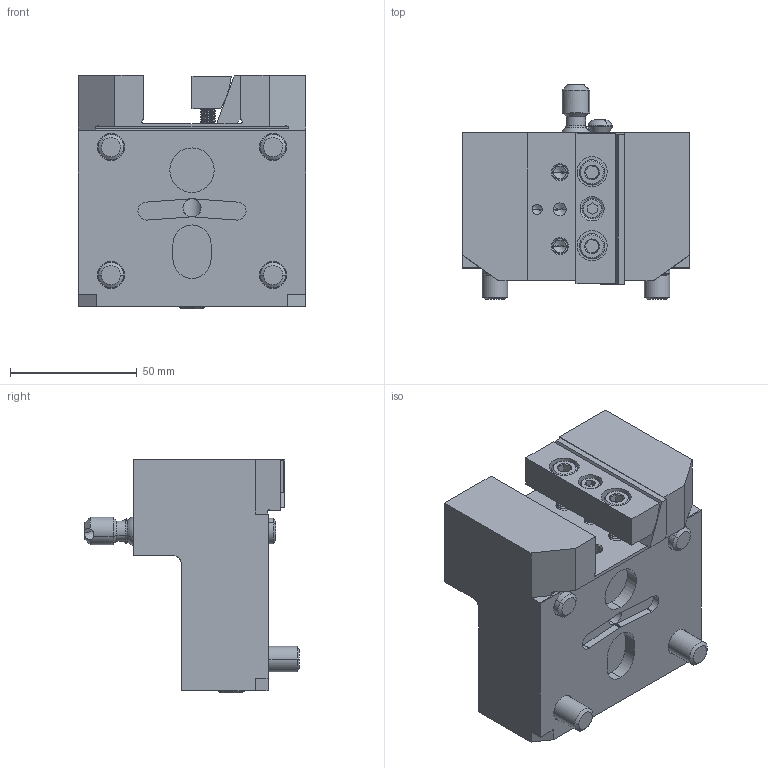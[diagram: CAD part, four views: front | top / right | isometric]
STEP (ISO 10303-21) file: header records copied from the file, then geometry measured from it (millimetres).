
FILE_DESCRIPTION (( 'STEP AP203' ), '1' );
FILE_NAME ('04-0790.STEP', '2022-07-12T15:56:47', ( '' ), ( '' ), 'SwSTEP 2.0', 'SolidWorks 2021', '' );
FILE_SCHEMA (( 'CONFIG_CONTROL_DESIGN' ));
Length unit declared in the file: inch
Products named in the file (15): 58-1627; 40-1640; 40-16582_40-16582; 10000015933; 22-8749; 04-0790; 10000016468; 40-0003_40-0003; 57-0026; 20-3797; 40-1626_40-1626; 20-3796; 40-0011_40-0011; 10000011175; 20-10448A
Assembly tree (17 placements, depth 3):
  04-0790
    10000011175
      20-10448A
      22-8749
      58-1627
      40-0003_40-0003
      20-3796
      20-3797
      40-1626_40-1626  x2
      40-0011_40-0011  x2
      40-1640
      40-16582_40-16582  x2
      57-0026
      10000016468
      10000015933
Bounding box: 90 x 84.69 x 92.13 mm (x, y, z)
Volume: 274248.3 mm3; surface area: 67280.2 mm2
Topology: 16 solids, 16 shells, 660 faces, 1635 edges, 1022 vertices
Faces by surface type: cylinder 338, plane 158, cone 145, torus 11, bspline 8
Entity records: 20240 total; most frequent: CARTESIAN_POINT 7431, ORIENTED_EDGE 2434, DIRECTION 2241, EDGE_CURVE 1217, AXIS2_PLACEMENT_3D 856, VERTEX_POINT 774, EDGE_LOOP 551, LINE 529
